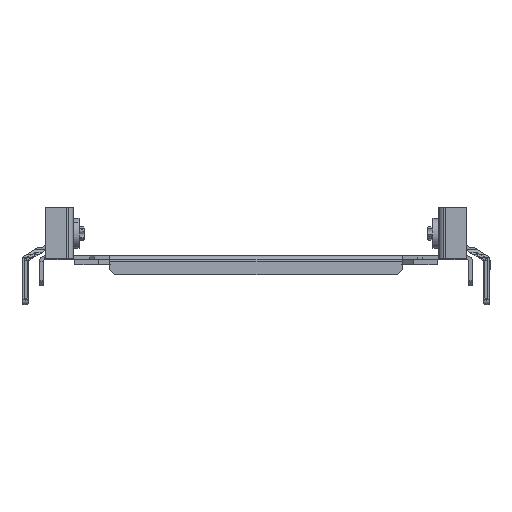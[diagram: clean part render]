
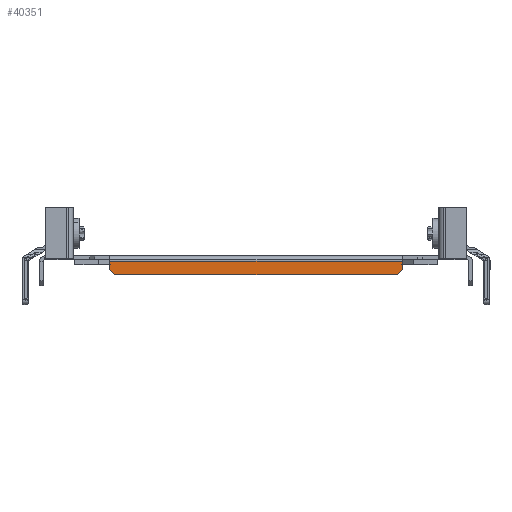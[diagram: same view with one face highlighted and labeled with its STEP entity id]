
A CAD part, left-side view. The second image highlights one B-rep face of the part: STEP entity #40351.
In plain terms, the highlighted planar face has unit normal (-1, 0, 0).
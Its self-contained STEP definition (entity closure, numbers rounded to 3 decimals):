
#32701=CARTESIAN_POINT(' ',(-371.5,58.5,-5.5));
#32702=VERTEX_POINT(' ',#32701);
#32716=CARTESIAN_POINT(' ',(-371.5,58.5,-2.1));
#32721=DIRECTION(' ',(0.,0.,-1.));
#32726=VECTOR(' ',#32721,1.);
#32731=LINE('',#32716,#32726);
#32736=CARTESIAN_POINT(' ',(-371.5,58.5,-2.1));
#32737=VERTEX_POINT(' ',#32736);
#32741=EDGE_CURVE(' ',#32737,#32702,#32731,.T.);
#32886=CARTESIAN_POINT(' ',(-371.5,58.5,-2.1));
#32891=DIRECTION(' ',(0.,-1.,0.));
#32896=VECTOR(' ',#32891,1.);
#32901=LINE('',#32886,#32896);
#32906=CARTESIAN_POINT(' ',(-371.5,-58.5,-2.1));
#32907=VERTEX_POINT(' ',#32906);
#32911=EDGE_CURVE(' ',#32737,#32907,#32901,.T.);
#33006=CARTESIAN_POINT(' ',(-371.5,-58.5,-5.5));
#33011=DIRECTION(' ',(0.,0.,1.));
#33016=VECTOR(' ',#33011,1.);
#33021=LINE('',#33006,#33016);
#33026=CARTESIAN_POINT(' ',(-371.5,-58.5,-5.5));
#33027=VERTEX_POINT(' ',#33026);
#33031=EDGE_CURVE(' ',#33027,#32907,#33021,.T.);
#40141=CARTESIAN_POINT(' ',(-371.5,58.5,-5.5));
#40146=DIRECTION(' ',(0.,-0.707,-0.707));
#40151=VECTOR(' ',#40146,1.);
#40156=LINE('',#40141,#40151);
#40161=CARTESIAN_POINT(' ',(-371.5,56.5,-7.5));
#40162=VERTEX_POINT(' ',#40161);
#40166=EDGE_CURVE(' ',#32702,#40162,#40156,.T.);
#40231=DIRECTION(' ',(-1.,-0.,0.));
#40236=CARTESIAN_POINT(' ',(-371.5,-58.5,-2.1));
#40241=DIRECTION(' ',(0.,1.,0.));
#40246=AXIS2_PLACEMENT_3D(' ',#40236,#40231,#40241);
#40251=PLANE('NONE',#40246);
#40256=CARTESIAN_POINT(' ',(-371.5,56.5,-7.5));
#40261=DIRECTION(' ',(0.,-1.,0.));
#40266=VECTOR(' ',#40261,1.);
#40271=LINE('',#40256,#40266);
#40276=CARTESIAN_POINT(' ',(-371.5,-56.5,-7.5));
#40277=VERTEX_POINT(' ',#40276);
#40281=EDGE_CURVE(' ',#40162,#40277,#40271,.T.);
#40286=ORIENTED_EDGE(' ',*,*,#40281,.T.);
#40291=CARTESIAN_POINT(' ',(-371.5,-56.5,-7.5));
#40296=DIRECTION(' ',(0.,-0.707,0.707));
#40301=VECTOR(' ',#40296,1.);
#40306=LINE('',#40291,#40301);
#40311=EDGE_CURVE(' ',#40277,#33027,#40306,.T.);
#40316=ORIENTED_EDGE(' ',*,*,#40311,.T.);
#40321=ORIENTED_EDGE(' ',*,*,#33031,.T.);
#40326=ORIENTED_EDGE(' ',*,*,#32911,.F.);
#40331=ORIENTED_EDGE(' ',*,*,#32741,.T.);
#40336=ORIENTED_EDGE(' ',*,*,#40166,.T.);
#40341=EDGE_LOOP(' ',(#40286,#40316,#40321,#40326,#40331,#40336));
#40346=FACE_OUTER_BOUND(' ',#40341,.T.);
#40351=ADVANCED_FACE('NONE',(#40346),#40251,.T.);
